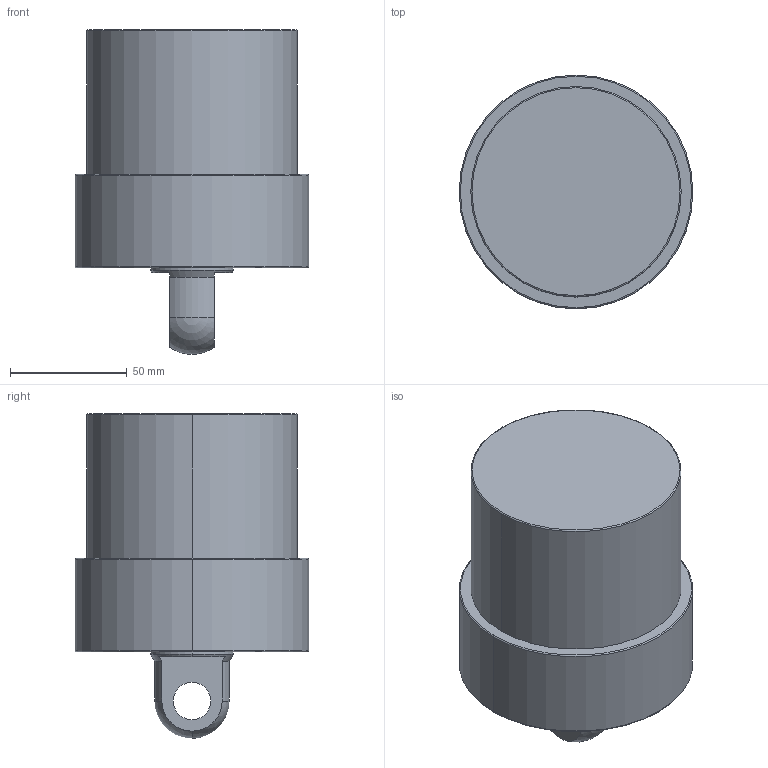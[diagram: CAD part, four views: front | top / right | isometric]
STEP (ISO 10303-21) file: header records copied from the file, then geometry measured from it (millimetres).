
FILE_DESCRIPTION (( 'STEP AP203' ), '1' );
FILE_NAME ('CLLU-090CP-040.STEP', '2020-01-13T03:15:48', ( '' ), ( '' ), 'SwSTEP 2.0', 'SolidWorks 2015', '' );
FILE_SCHEMA (( 'CONFIG_CONTROL_DESIGN' ));
Length unit declared in the file: millimetre
Products named in the file (1): CLLU-090CP-040
Bounding box: 100 x 100 x 139 mm (x, y, z)
Volume: 718270.1 mm3; surface area: 51665 mm2
Topology: 1 solids, 1 shells, 57 faces, 134 edges, 77 vertices
Faces by surface type: cylinder 22, cone 18, plane 9, torus 6, sphere 2
Entity records: 1643 total; most frequent: DIRECTION 308, CARTESIAN_POINT 267, ORIENTED_EDGE 244, AXIS2_PLACEMENT_3D 132, EDGE_CURVE 122, VERTEX_POINT 75, CIRCLE 74, EDGE_LOOP 67
